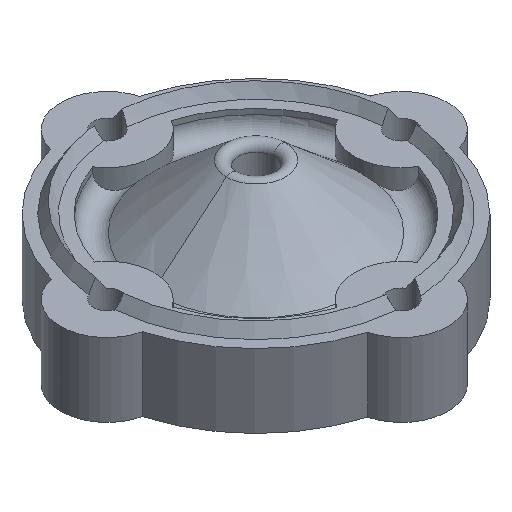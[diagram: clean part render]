
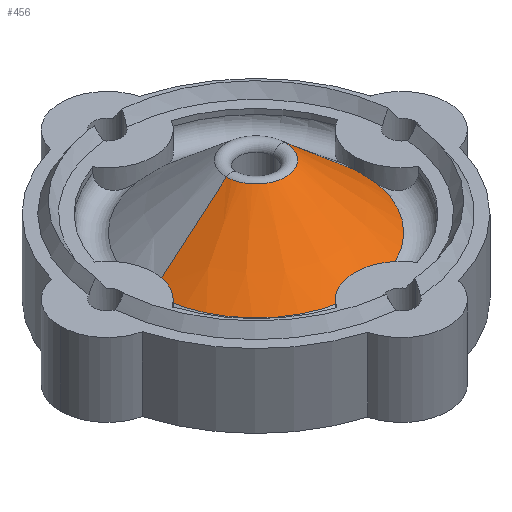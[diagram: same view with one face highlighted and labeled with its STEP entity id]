
A CAD part, isometric view. The second image highlights one B-rep face of the part: STEP entity #456.
In plain terms, the highlighted conical face has half-angle 50 degrees and reference radius 28.429 mm.
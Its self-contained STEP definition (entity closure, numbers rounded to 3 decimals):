
#13 = VECTOR ( 'NONE', #2739, 1000. ) ;
#14 = VERTEX_POINT ( 'NONE', #802 ) ;
#65 = B_SPLINE_CURVE_WITH_KNOTS ( 'NONE', 3,
 ( #838, #1679, #2534, #631, #2622, #522, #736, #1984 ),
 .UNSPECIFIED., .F., .F.,
 ( 4, 2, 2, 4 ),
 ( 0., 0.002, 0.003, 0.003 ),
 .UNSPECIFIED. ) ;
#93 = VERTEX_POINT ( 'NONE', #1683 ) ;
#164 = DIRECTION ( 'NONE',  ( 0., 0., -1. ) ) ;
#178 = CARTESIAN_POINT ( 'NONE',  ( 28.885, 0., -4.486 ) ) ;
#185 = CARTESIAN_POINT ( 'NONE',  ( 8.492, 0., 12.626 ) ) ;
#200 = CARTESIAN_POINT ( 'NONE',  ( -2.862, -27.621, -3.973 ) ) ;
#346 = CARTESIAN_POINT ( 'NONE',  ( 0.456, 0., -4.486 ) ) ;
#353 = FACE_OUTER_BOUND ( 'NONE', #1585, .T. ) ;
#365 = AXIS2_PLACEMENT_3D ( 'NONE', #1387, #1412, #2263 ) ;
#376 = AXIS2_PLACEMENT_3D ( 'NONE', #1608, #164, #2710 ) ;
#383 = CARTESIAN_POINT ( 'NONE',  ( 0.913, -27.327, -3.563 ) ) ;
#394 = CARTESIAN_POINT ( 'NONE',  ( -0.232, -27.296, -3.541 ) ) ;
#418 = B_SPLINE_CURVE_WITH_KNOTS ( 'NONE', 3,
 ( #1472, #2729, #2352, #1063, #1255, #655, #2310, #2341, #433, #1707 ),
 .UNSPECIFIED., .F., .F.,
 ( 4, 2, 2, 2, 4 ),
 ( 0.006, 0.007, 0.008, 0.01, 0.011 ),
 .UNSPECIFIED. ) ;
#433 = CARTESIAN_POINT ( 'NONE',  ( 28.236, -4.804, -4.286 ) ) ;
#456 = ADVANCED_FACE ( 'NONE', ( #353 ), #1200, .T. ) ;
#474 = ORIENTED_EDGE ( 'NONE', *, *, #2248, .F. ) ;
#522 = CARTESIAN_POINT ( 'NONE',  ( -27.31, -0.588, -3.934 ) ) ;
#531 = EDGE_CURVE ( 'NONE', #14, #2340, #843, .T. ) ;
#616 = AXIS2_PLACEMENT_3D ( 'NONE', #788, #2235, #2010 ) ;
#617 = CARTESIAN_POINT ( 'NONE',  ( -4.258, -28.035, -4.486 ) ) ;
#626 = LINE ( 'NONE', #1885, #13 ) ;
#631 = CARTESIAN_POINT ( 'NONE',  ( -27.381, -1.462, -4.021 ) ) ;
#641 = VERTEX_POINT ( 'NONE', #1297 ) ;
#655 = CARTESIAN_POINT ( 'NONE',  ( 27.69, -3.156, -3.634 ) ) ;
#685 = ORIENTED_EDGE ( 'NONE', *, *, #1479, .T. ) ;
#736 = CARTESIAN_POINT ( 'NONE',  ( -27.3, -0.292, -3.922 ) ) ;
#751 = CARTESIAN_POINT ( 'NONE',  ( -27.3, 0., -3.922 ) ) ;
#788 = CARTESIAN_POINT ( 'NONE',  ( 0.456, 0., -4.486 ) ) ;
#802 = CARTESIAN_POINT ( 'NONE',  ( 4.53, -28.135, -4.486 ) ) ;
#822 = DIRECTION ( 'NONE',  ( 0.766, 0., -0.643 ) ) ;
#826 = CARTESIAN_POINT ( 'NONE',  ( -1.761, -27.417, -3.71 ) ) ;
#838 = CARTESIAN_POINT ( 'NONE',  ( -27.767, -3.413, -4.486 ) ) ;
#840 = CARTESIAN_POINT ( 'NONE',  ( 0.532, -27.305, -3.541 ) ) ;
#843 = B_SPLINE_CURVE_WITH_KNOTS ( 'NONE', 3,
 ( #1889, #1850, #1449, #1464, #2331, #383, #840, #394, #1476, #1665, #826, #1274, #200, #2715, #1039, #617 ),
 .UNSPECIFIED., .F., .F.,
 ( 4, 2, 2, 2, 2, 2, 2, 4 ),
 ( 0., 0.002, 0.003, 0.005, 0.006, 0.007, 0.008, 0.009 ),
 .UNSPECIFIED. ) ;
#976 = DIRECTION ( 'NONE',  ( 0., 0., -1. ) ) ;
#1039 = CARTESIAN_POINT ( 'NONE',  ( -3.92, -27.915, -4.34 ) ) ;
#1063 = CARTESIAN_POINT ( 'NONE',  ( 27.425, -1.837, -3.311 ) ) ;
#1126 = ORIENTED_EDGE ( 'NONE', *, *, #1901, .F. ) ;
#1154 = EDGE_CURVE ( 'NONE', #641, #1306, #65, .T. ) ;
#1182 = AXIS2_PLACEMENT_3D ( 'NONE', #346, #976, #1776 ) ;
#1200 = CONICAL_SURFACE ( 'NONE', #616, 28.429, 0.873 ) ;
#1213 = ORIENTED_EDGE ( 'NONE', *, *, #531, .F. ) ;
#1255 = CARTESIAN_POINT ( 'NONE',  ( 27.499, -2.282, -3.401 ) ) ;
#1274 = CARTESIAN_POINT ( 'NONE',  ( -2.5, -27.543, -3.873 ) ) ;
#1297 = CARTESIAN_POINT ( 'NONE',  ( -27.767, -3.413, -4.486 ) ) ;
#1306 = VERTEX_POINT ( 'NONE', #751 ) ;
#1387 = CARTESIAN_POINT ( 'NONE',  ( 0.456, 0., 12.626 ) ) ;
#1398 = ORIENTED_EDGE ( 'NONE', *, *, #2391, .F. ) ;
#1412 = DIRECTION ( 'NONE',  ( 0., 0., -1. ) ) ;
#1449 = CARTESIAN_POINT ( 'NONE',  ( 3.16, -27.676, -3.957 ) ) ;
#1464 = CARTESIAN_POINT ( 'NONE',  ( 2.053, -27.461, -3.711 ) ) ;
#1472 = CARTESIAN_POINT ( 'NONE',  ( 27.3, 0., -3.156 ) ) ;
#1476 = CARTESIAN_POINT ( 'NONE',  ( -0.615, -27.309, -3.562 ) ) ;
#1479 = EDGE_CURVE ( 'NONE', #93, #1306, #626, .T. ) ;
#1489 = ORIENTED_EDGE ( 'NONE', *, *, #1623, .T. ) ;
#1561 = CIRCLE ( 'NONE', #365, 8.036 ) ;
#1573 = CIRCLE ( 'NONE', #376, 28.429 ) ;
#1585 = EDGE_LOOP ( 'NONE', ( #1398, #1489, #685, #2290, #2030, #1213, #474, #1126 ) ) ;
#1608 = CARTESIAN_POINT ( 'NONE',  ( 0.456, 0., -4.486 ) ) ;
#1623 = EDGE_CURVE ( 'NONE', #2526, #93, #1561, .T. ) ;
#1656 = VERTEX_POINT ( 'NONE', #1839 ) ;
#1665 = CARTESIAN_POINT ( 'NONE',  ( -1.382, -27.37, -3.647 ) ) ;
#1679 = CARTESIAN_POINT ( 'NONE',  ( -27.616, -2.871, -4.306 ) ) ;
#1683 = CARTESIAN_POINT ( 'NONE',  ( -7.579, 0., 12.626 ) ) ;
#1707 = CARTESIAN_POINT ( 'NONE',  ( 28.408, -5.187, -4.486 ) ) ;
#1776 = DIRECTION ( 'NONE',  ( -1., 0., 0. ) ) ;
#1834 = VECTOR ( 'NONE', #822, 1000. ) ;
#1839 = CARTESIAN_POINT ( 'NONE',  ( 27.3, 0., -3.156 ) ) ;
#1850 = CARTESIAN_POINT ( 'NONE',  ( 3.86, -27.88, -4.193 ) ) ;
#1885 = CARTESIAN_POINT ( 'NONE',  ( -27.973, 0., -4.486 ) ) ;
#1889 = CARTESIAN_POINT ( 'NONE',  ( 4.53, -28.135, -4.486 ) ) ;
#1901 = EDGE_CURVE ( 'NONE', #1656, #2240, #418, .T. ) ;
#1984 = CARTESIAN_POINT ( 'NONE',  ( -27.3, 0., -3.922 ) ) ;
#2010 = DIRECTION ( 'NONE',  ( -1., 0., 0. ) ) ;
#2030 = ORIENTED_EDGE ( 'NONE', *, *, #2425, .F. ) ;
#2057 = CIRCLE ( 'NONE', #1182, 28.429 ) ;
#2078 = LINE ( 'NONE', #178, #1834 ) ;
#2235 = DIRECTION ( 'NONE',  ( 0., 0., -1. ) ) ;
#2240 = VERTEX_POINT ( 'NONE', #2257 ) ;
#2248 = EDGE_CURVE ( 'NONE', #2240, #14, #1573, .T. ) ;
#2257 = CARTESIAN_POINT ( 'NONE',  ( 28.408, -5.187, -4.486 ) ) ;
#2263 = DIRECTION ( 'NONE',  ( -1., 0., 0. ) ) ;
#2290 = ORIENTED_EDGE ( 'NONE', *, *, #1154, .F. ) ;
#2310 = CARTESIAN_POINT ( 'NONE',  ( 27.809, -3.585, -3.777 ) ) ;
#2331 = CARTESIAN_POINT ( 'NONE',  ( 1.673, -27.405, -3.647 ) ) ;
#2340 = VERTEX_POINT ( 'NONE', #2599 ) ;
#2341 = CARTESIAN_POINT ( 'NONE',  ( 28.082, -4.408, -4.103 ) ) ;
#2352 = CARTESIAN_POINT ( 'NONE',  ( 27.326, -0.929, -3.188 ) ) ;
#2391 = EDGE_CURVE ( 'NONE', #2526, #1656, #2078, .T. ) ;
#2425 = EDGE_CURVE ( 'NONE', #2340, #641, #2057, .T. ) ;
#2526 = VERTEX_POINT ( 'NONE', #185 ) ;
#2534 = CARTESIAN_POINT ( 'NONE',  ( -27.5, -2.316, -4.165 ) ) ;
#2599 = CARTESIAN_POINT ( 'NONE',  ( -4.258, -28.035, -4.486 ) ) ;
#2622 = CARTESIAN_POINT ( 'NONE',  ( -27.351, -1.173, -3.984 ) ) ;
#2710 = DIRECTION ( 'NONE',  ( -1., 0., 0. ) ) ;
#2715 = CARTESIAN_POINT ( 'NONE',  ( -3.572, -27.807, -4.206 ) ) ;
#2729 = CARTESIAN_POINT ( 'NONE',  ( 27.3, -0.461, -3.156 ) ) ;
#2739 = DIRECTION ( 'NONE',  ( -0.766, 0., -0.643 ) ) ;
